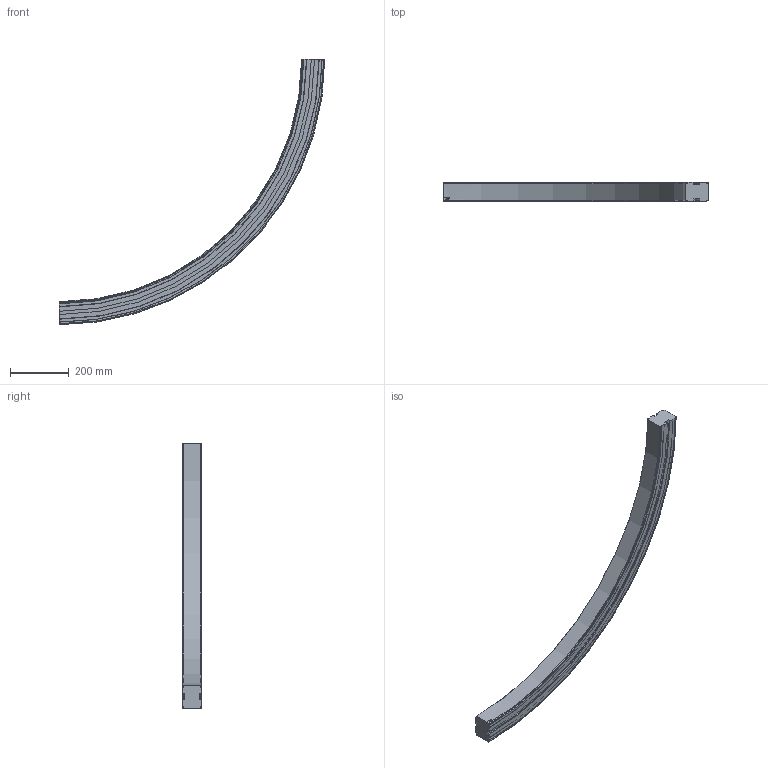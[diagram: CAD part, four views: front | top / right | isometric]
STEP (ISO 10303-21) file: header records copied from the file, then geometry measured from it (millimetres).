
FILE_DESCRIPTION((''),'2;1');
FILE_NAME('C:\Vault Klient\Projekt\Koncept konstruktion\Serie 620 Balk\620-5690_UP.stp','2009-11-27T08:08:11',('Mathias'),(''),'Autodesk Inventor 2010','Autodesk Inventor 2010','');
FILE_SCHEMA(('AUTOMOTIVE_DESIGN { 1 0 10303 214 1 1 1 1 }'));
Length unit declared in the file: millimetre
Products named in the file (1): 620-5690_UP
Bounding box: 900 x 64 x 900 mm (x, y, z)
Volume: 6289437.5 mm3; surface area: 496762 mm2
Topology: 1 solids, 1 shells, 93 faces, 258 edges, 172 vertices
Faces by surface type: plane 40, cylinder 23, bspline 14, cone 12, torus 4
Entity records: 3437 total; most frequent: CARTESIAN_POINT 1002, ORIENTED_EDGE 516, DIRECTION 472, EDGE_CURVE 258, VERTEX_POINT 172, AXIS2_PLACEMENT_3D 162, VECTOR 148, LINE 148
